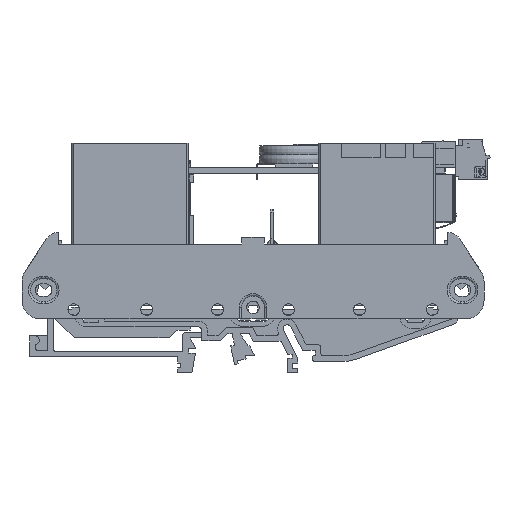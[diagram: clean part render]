
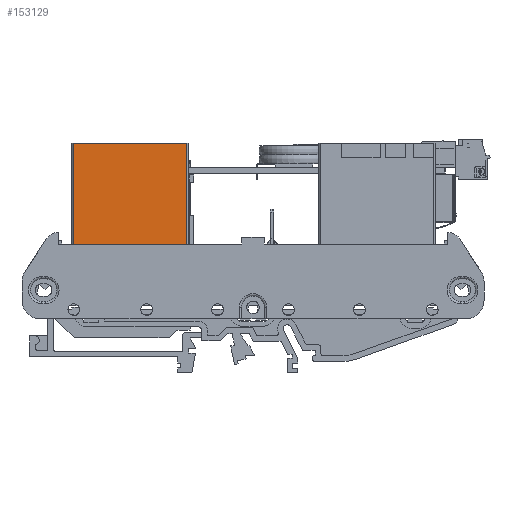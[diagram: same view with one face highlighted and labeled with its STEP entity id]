
A CAD part, left-side view. The second image highlights one B-rep face of the part: STEP entity #153129.
In plain terms, the highlighted planar face has unit normal (-1, 0, 0).
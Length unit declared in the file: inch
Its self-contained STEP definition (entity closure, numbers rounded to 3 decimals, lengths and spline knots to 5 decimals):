
#20187=CARTESIAN_POINT('',(7.98982,-0.19794,3.43604));
#20188=VERTEX_POINT('',#20187);
#20197=CARTESIAN_POINT('',(7.98982,1.01796,3.43604));
#20198=VERTEX_POINT('',#20197);
#20199=CARTESIAN_POINT('',(7.98982,1.01796,3.43604));
#20200=DIRECTION('',(0.0,-1.0,0.0));
#20201=VECTOR('',#20200,1.21591);
#20202=LINE('',#20199,#20201);
#20203=EDGE_CURVE('',#20198,#20188,#20202,.T.);
#153011=CARTESIAN_POINT('',(7.98982,1.01796,4.54234));
#153012=VERTEX_POINT('',#153011);
#153021=CARTESIAN_POINT('',(7.98982,1.01796,3.43604));
#153022=DIRECTION('',(0.0,0.0,1.0));
#153023=VECTOR('',#153022,1.1063);
#153024=LINE('',#153021,#153023);
#153025=EDGE_CURVE('',#20198,#153012,#153024,.T.);
#153106=CARTESIAN_POINT('',(7.98982,1.03796,3.43604));
#153107=DIRECTION('',(-1.0,0.0,0.0));
#153108=DIRECTION('',(0.0,-1.0,0.0));
#153109=AXIS2_PLACEMENT_3D('',#153106,#153107,#153108);
#153110=PLANE('',#153109);
#153111=CARTESIAN_POINT('',(7.98982,-0.19794,4.54234));
#153112=VERTEX_POINT('',#153111);
#153113=CARTESIAN_POINT('',(7.98982,-0.19794,4.54234));
#153114=DIRECTION('',(0.0,0.0,-1.0));
#153115=VECTOR('',#153114,1.1063);
#153116=LINE('',#153113,#153115);
#153117=EDGE_CURVE('',#153112,#20188,#153116,.T.);
#153118=ORIENTED_EDGE('',*,*,#153117,.F.);
#153119=CARTESIAN_POINT('',(7.98982,1.01796,4.54234));
#153120=DIRECTION('',(0.0,-1.0,0.0));
#153121=VECTOR('',#153120,1.21591);
#153122=LINE('',#153119,#153121);
#153123=EDGE_CURVE('',#153012,#153112,#153122,.T.);
#153124=ORIENTED_EDGE('',*,*,#153123,.F.);
#153125=ORIENTED_EDGE('',*,*,#153025,.F.);
#153126=ORIENTED_EDGE('',*,*,#20203,.T.);
#153127=EDGE_LOOP('',(#153118,#153124,#153125,#153126));
#153128=FACE_OUTER_BOUND('',#153127,.T.);
#153129=ADVANCED_FACE('',(#153128),#153110,.T.);
